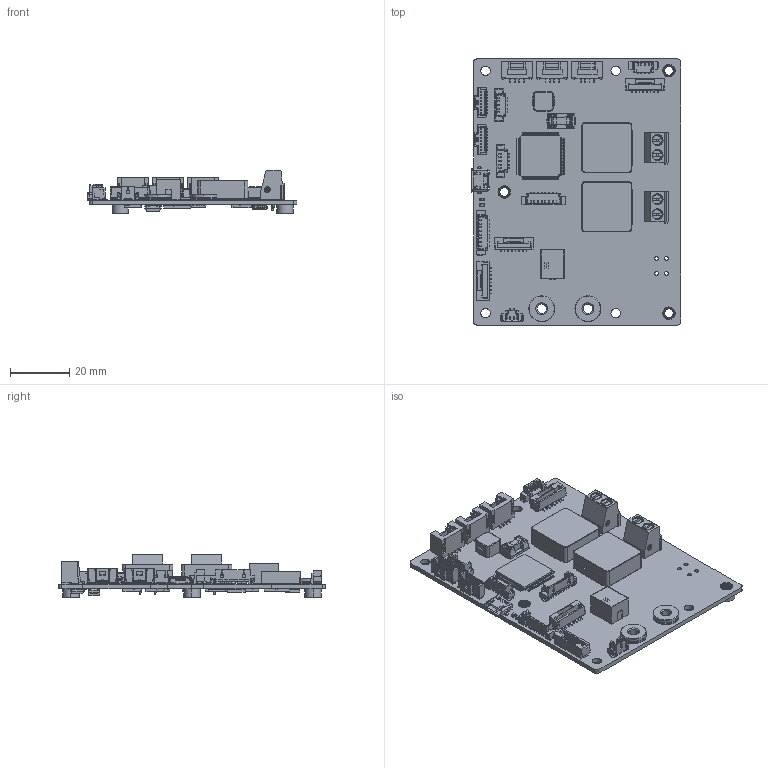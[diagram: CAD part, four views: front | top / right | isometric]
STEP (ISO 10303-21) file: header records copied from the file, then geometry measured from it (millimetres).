
FILE_DESCRIPTION (( 'STEP AP203' ), '1' );
FILE_NAME ('VTC1502-A.STEP', '2023-07-27T08:40:15', ( '' ), ( '' ), 'SwSTEP 2.0', 'SolidWorks 2020', '' );
FILE_SCHEMA (( 'CONFIG_CONTROL_DESIGN' ));
Products named in the file (1): VTC1502-A
Bounding box: 70.84 x 90 x 14.63 mm (x, y, z)
Surface area: 27760.5 mm2 (no closed solid volume)
Topology: 0 solids, 205 shells, 8921 faces, 23883 edges, 15666 vertices
Faces by surface type: plane 7170, cylinder 1477, bspline 132, cone 92, torus 40, sphere 10
Entity records: 283293 total; most frequent: CARTESIAN_POINT 59938, ORIENTED_EDGE 47646, DIRECTION 43644, EDGE_CURVE 23859, VECTOR 20180, LINE 20180, VERTEX_POINT 15666, AXIS2_PLACEMENT_3D 11732
